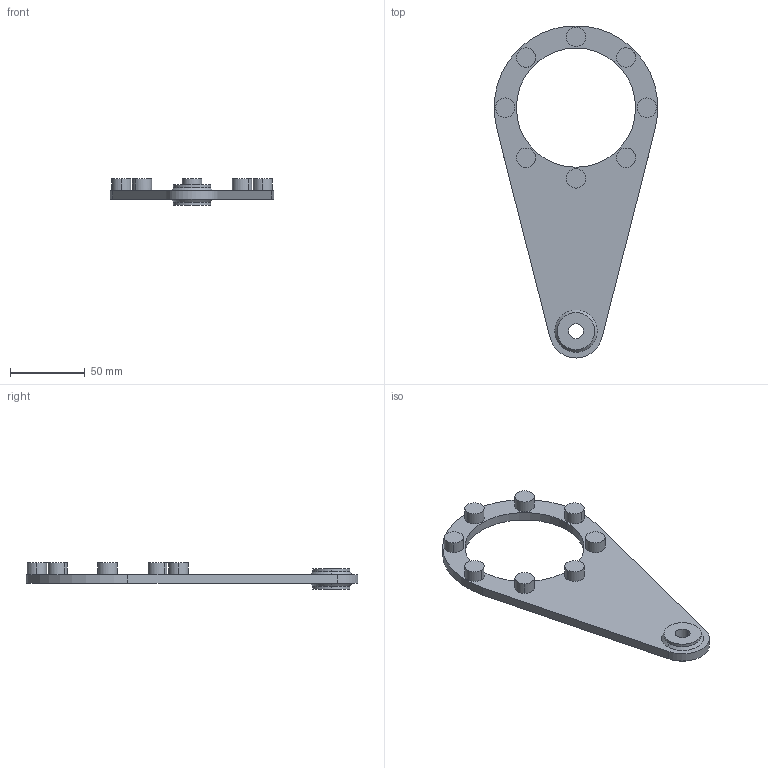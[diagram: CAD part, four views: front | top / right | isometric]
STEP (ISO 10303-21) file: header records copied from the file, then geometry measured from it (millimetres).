
FILE_DESCRIPTION(/* description */ (''),/* implementation_level */ '2;1');
FILE_NAME(/* name */ '9_BRACCIO DI REAZIONE NMRV-P063',/* time_stamp */ '2025-10-09T14:57:50+02:00',/* author */ (''),/* organization */ (''),/* preprocessor_version */ 'ST-DEVELOPER v19.2',/* originating_system */ 'Rhino 8.23',/* authorisation */ '');
FILE_SCHEMA (('CONFIG_CONTROL_DESIGN'));
Length unit declared in the file: millimetre
Products named in the file (2): Document; 63-150-p
Bounding box: 109.68 x 222.79 x 18 mm (x, y, z)
Volume: 80714.9 mm3; surface area: 31145.1 mm2
Topology: 1 solids, 1 shells, 44 faces, 100 edges, 68 vertices
Faces by surface type: cylinder 26, plane 14, bspline 4
Entity records: 1604 total; most frequent: CARTESIAN_POINT 416, ORIENTED_EDGE 200, DIRECTION 176, AXIS2_PLACEMENT_3D 108, EDGE_CURVE 100, VERTEX_POINT 68, TRIMMED_CURVE 64, CIRCLE 64
